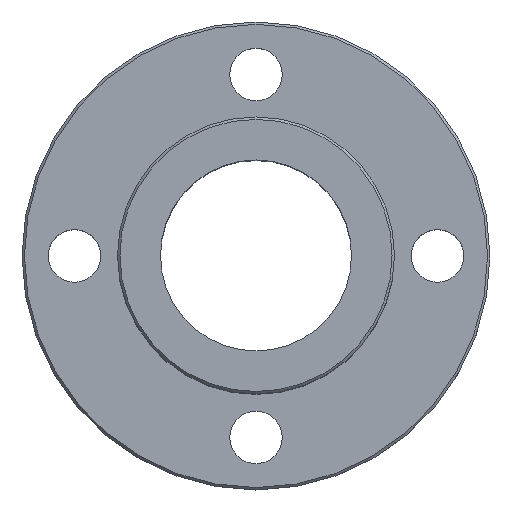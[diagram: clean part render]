
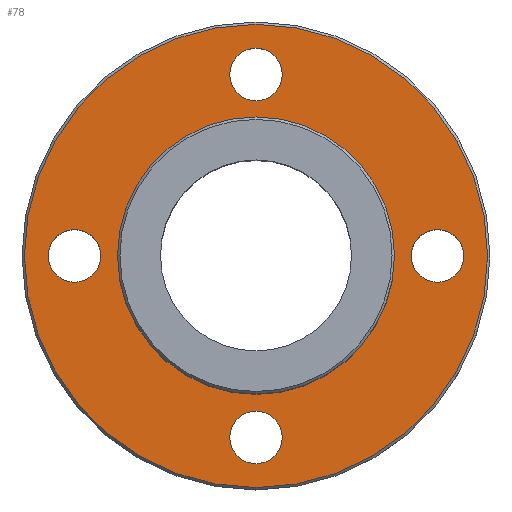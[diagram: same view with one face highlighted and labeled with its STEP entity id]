
A CAD part, top view. The second image highlights one B-rep face of the part: STEP entity #78.
In plain terms, the highlighted planar face has unit normal (0, 0, 1).
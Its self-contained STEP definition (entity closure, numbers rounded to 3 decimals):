
#78=ADVANCED_FACE('',(#102,#103,#104,#105,#106,#107),#108,.T.);
#102=FACE_BOUND('',#149,.T.);
#103=FACE_BOUND('',#150,.T.);
#104=FACE_OUTER_BOUND('',#151,.T.);
#105=FACE_BOUND('',#152,.T.);
#106=FACE_BOUND('',#153,.T.);
#107=FACE_BOUND('',#154,.T.);
#108=PLANE('',#155);
#149=EDGE_LOOP('',(#202));
#150=EDGE_LOOP('',(#203));
#151=EDGE_LOOP('',(#204));
#152=EDGE_LOOP('',(#205));
#153=EDGE_LOOP('',(#206));
#154=EDGE_LOOP('',(#207));
#155=AXIS2_PLACEMENT_3D('',#208,#209,#210);
#202=ORIENTED_EDGE('',*,*,#258,.T.);
#203=ORIENTED_EDGE('',*,*,#264,.T.);
#204=ORIENTED_EDGE('',*,*,#265,.T.);
#205=ORIENTED_EDGE('',*,*,#266,.T.);
#206=ORIENTED_EDGE('',*,*,#267,.T.);
#207=ORIENTED_EDGE('',*,*,#256,.T.);
#208=CARTESIAN_POINT('',(0.0,0.0,10.0));
#209=DIRECTION('',(0.0,0.0,1.0));
#210=DIRECTION('',(1.0,0.0,0.0));
#256=EDGE_CURVE('',#273,#273,#274,.F.);
#258=EDGE_CURVE('',#277,#277,#278,.F.);
#264=EDGE_CURVE('',#289,#289,#290,.F.);
#265=EDGE_CURVE('',#291,#291,#292,.T.);
#266=EDGE_CURVE('',#293,#293,#294,.F.);
#267=EDGE_CURVE('',#295,#295,#296,.F.);
#273=VERTEX_POINT('',#307);
#274=CIRCLE('',#308,5.5);
#277=VERTEX_POINT('',#311);
#278=CIRCLE('',#312,5.5);
#289=VERTEX_POINT('',#323);
#290=CIRCLE('',#324,5.5);
#291=VERTEX_POINT('',#325);
#292=CIRCLE('',#326,48.5);
#293=VERTEX_POINT('',#327);
#294=CIRCLE('',#328,29.0);
#295=VERTEX_POINT('',#329);
#296=CIRCLE('',#330,5.5);
#307=CARTESIAN_POINT('',(5.5,-38.0,10.0));
#308=AXIS2_PLACEMENT_3D('',#341,#342,#343);
#311=CARTESIAN_POINT('',(-32.5,0.,10.0));
#312=AXIS2_PLACEMENT_3D('',#347,#348,#349);
#323=CARTESIAN_POINT('',(43.5,0.,10.0));
#324=AXIS2_PLACEMENT_3D('',#365,#366,#367);
#325=CARTESIAN_POINT('',(48.5,0.0,10.0));
#326=AXIS2_PLACEMENT_3D('',#368,#369,#370);
#327=CARTESIAN_POINT('',(29.0,0.,10.0));
#328=AXIS2_PLACEMENT_3D('',#371,#372,#373);
#329=CARTESIAN_POINT('',(5.5,38.0,10.0));
#330=AXIS2_PLACEMENT_3D('',#374,#375,#376);
#341=CARTESIAN_POINT('',(0.,-38.0,10.0));
#342=DIRECTION('',(0.0,0.0,1.0));
#343=DIRECTION('',(1.0,0.0,0.0));
#347=CARTESIAN_POINT('',(-38.0,0.,10.0));
#348=DIRECTION('',(0.0,0.0,1.0));
#349=DIRECTION('',(1.0,0.0,0.0));
#365=CARTESIAN_POINT('',(38.0,0.0,10.0));
#366=DIRECTION('',(0.0,0.0,1.0));
#367=DIRECTION('',(1.0,0.0,0.0));
#368=CARTESIAN_POINT('',(0.0,0.0,10.0));
#369=DIRECTION('',(0.0,0.0,1.0));
#370=DIRECTION('',(1.0,0.0,0.0));
#371=CARTESIAN_POINT('',(0.0,0.0,10.0));
#372=DIRECTION('',(0.0,0.0,1.0));
#373=DIRECTION('',(1.0,0.0,0.0));
#374=CARTESIAN_POINT('',(0.,38.0,10.0));
#375=DIRECTION('',(0.0,0.0,1.0));
#376=DIRECTION('',(1.0,0.0,0.0));
